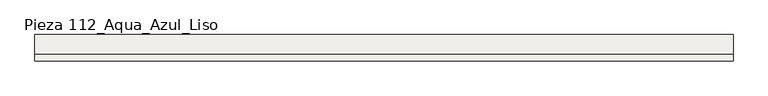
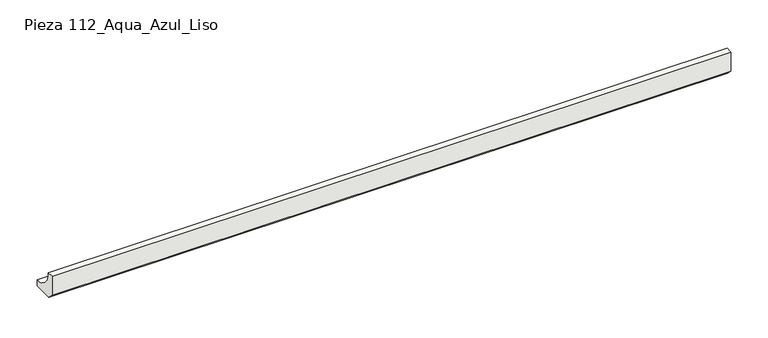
"""IFC4 building model written with IfcOpenShell, lengths in millimetres: slab geometry, ROSA GRES_112 : Pieza 112_Aqua_Azul_Liso."""

from ifc_helpers import new_model, si_unit, point, frame, frame_2d, origin, place, context, project, spatial, polyline, circle_curve, trimmed, segment, composite_curve, outline, extrude, source, transform, mapped, element, save


def pieza_112_aqua_azul_liso_e030877e(model_context):
    return source(origin(), model_context, "Body", "SweptSolid", [
        extrude(outline(composite_curve([segment(polyline([(0.0, 8.7114978), (0.0, 40.0), (9.9734114, 40.0)]), True, "CONTINUOUS"), segment(trimmed(circle_curve(frame_2d((39.9955547, 39.9955547)), 30.0221435), [point((9.9734114, 40.0))], [point((40.0, 9.9734114))], True, "CARTESIAN"), True, "CONTINUOUS"), segment(polyline([(40.0, 9.9734114), (40.0, 0.0), (8.7114978, 0.0), (0.0, 8.7114978)]), True, "CONTINUOUS")], self_intersect=False)), frame((0.0, 0.0, 0.0), z_axis=(1.0, 0.0, 0.0), x_axis=(0.0, 1.0, 0.0)), (0.0, 0.0, 1.0), 1052.6890379),
    ])


if __name__ == "__main__":
    model = new_model("IFC4")
    model_context = context("Model", 3, world=origin())
    ifc_project = project(units=[si_unit("LENGTHUNIT", "METRE", prefix="MILLI")], contexts=[model_context])
    site = spatial("IfcSite", under=ifc_project)
    building = spatial("IfcBuilding", under=site)
    placement = place(None, origin())
    pieza_112_aqua_azul_liso_shape = pieza_112_aqua_azul_liso_e030877e(model_context)
    element("IfcSlab", 1, ObjectType="ROSA GRES_112 : Pieza 112_Aqua_Azul_Liso", at=placement, inside=building, context=model_context, shape_type="MappedRepresentation", body=[
        mapped(pieza_112_aqua_azul_liso_shape, transform((0.0, 0.0, 0.0), x_axis=(1.0, 0.0, 0.0), y_axis=(0.0, 1.0, 0.0), z_axis=(0.0, 0.0, 1.0))),
    ])
    save(model, "model.ifc")
